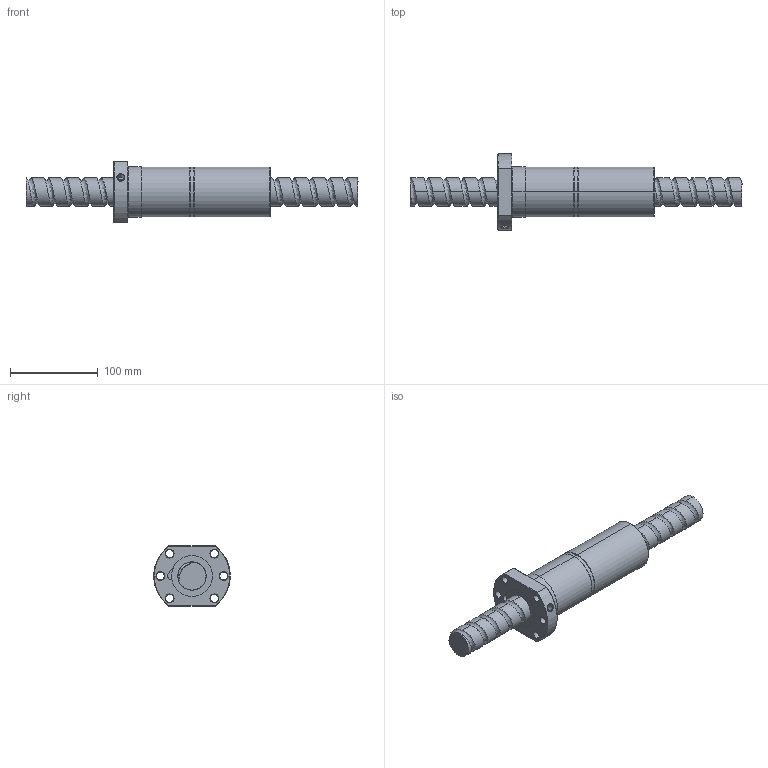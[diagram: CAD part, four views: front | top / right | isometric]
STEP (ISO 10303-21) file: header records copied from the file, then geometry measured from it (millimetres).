
FILE_DESCRIPTION (( 'STEP AP214' ), '1' );
FILE_NAME ('FDDC03220T3-F-C.STEP', '2010-07-06T05:16:18', ( 'XPAUTO' ), ( 'XPAUTO' ), 'SwSTEP 2.0', 'SolidWorks 2007', '' );
FILE_SCHEMA (( 'AUTOMOTIVE_DESIGN' ));
Length unit declared in the file: millimetre
Products named in the file (3): FDDC03220T3-F-C.sldasm-Part-2_預設; FDDC03220T3-F-C.sldasm-Part-1_預設; FDDC03220T3-F-C
Assembly tree (2 placements, depth 2):
  FDDC03220T3-F-C
    FDDC03220T3-F-C.sldasm-Part-1_預設
    FDDC03220T3-F-C.sldasm-Part-2_預設
Bounding box: 378 x 86.7 x 69 mm (x, y, z)
Volume: 626092.8 mm3; surface area: 105533.8 mm2
Topology: 2 solids, 2 shells, 143 faces, 352 edges, 219 vertices
Faces by surface type: cylinder 81, cone 24, plane 23, torus 10, bspline 5
Entity records: 26504 total; most frequent: CARTESIAN_POINT 23139, ORIENTED_EDGE 704, DIRECTION 656, EDGE_CURVE 352, AXIS2_PLACEMENT_3D 267, VERTEX_POINT 219, EDGE_LOOP 165, FACE_OUTER_BOUND 143
